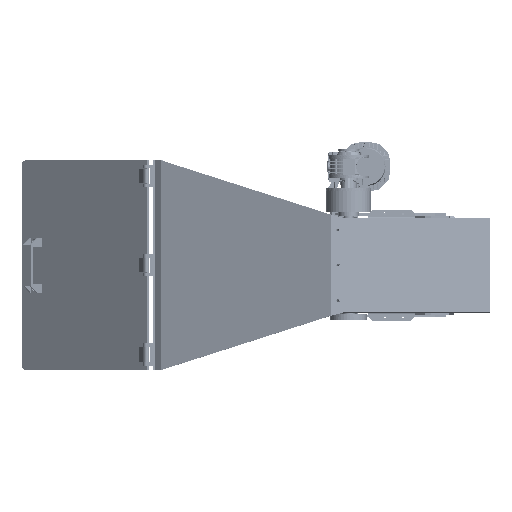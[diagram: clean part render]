
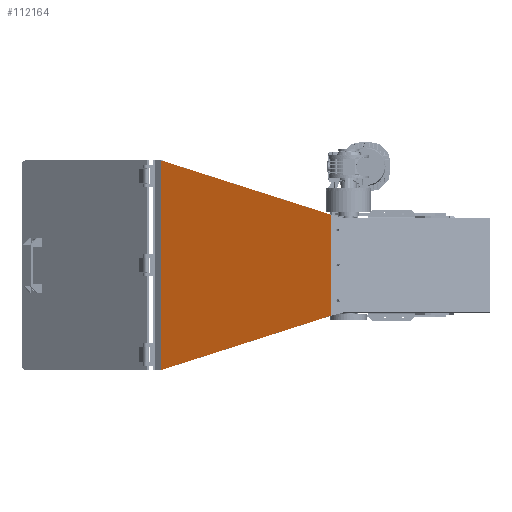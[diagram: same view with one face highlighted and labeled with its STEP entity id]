
A CAD part, left-side view. The second image highlights one B-rep face of the part: STEP entity #112164.
In plain terms, the highlighted planar face has unit normal (-0.945, 0.328, 0) as drawn and (0, 0.94, -0.341) by its records, which use the part's own axes.
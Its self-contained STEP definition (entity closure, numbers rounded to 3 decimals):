
#1595 = CARTESIAN_POINT ( 'NONE',  ( 124.025, 962.234, 265.293 ) ) ;
#5288 = VERTEX_POINT ( 'NONE', #158343 ) ;
#16166 = DIRECTION ( 'NONE',  ( 0., -0.94, 0.341 ) ) ;
#17763 = DIRECTION ( 'NONE',  ( -0.289, -0.326, -0.9 ) ) ;
#17828 = VECTOR ( 'NONE', #17763, 1000. ) ;
#32903 = EDGE_LOOP ( 'NONE', ( #192892, #64604, #220061, #95018 ) ) ;
#40908 = EDGE_CURVE ( 'NONE', #154256, #5288, #198997, .T. ) ;
#51159 = EDGE_CURVE ( 'NONE', #101628, #229108, #126811, .T. ) ;
#64604 = ORIENTED_EDGE ( 'NONE', *, *, #178168, .T. ) ;
#65037 = EDGE_CURVE ( 'NONE', #101628, #154256, #67479, .T. ) ;
#67479 = LINE ( 'NONE', #106807, #17828 ) ;
#70454 = CARTESIAN_POINT ( 'NONE',  ( -258.1, 961.973, 264.575 ) ) ;
#86675 = DIRECTION ( 'NONE',  ( -1., 0., 0. ) ) ;
#95018 = ORIENTED_EDGE ( 'NONE', *, *, #65037, .F. ) ;
#95758 = CARTESIAN_POINT ( 'NONE',  ( -258.1, 811.04, -152. ) ) ;
#101628 = VERTEX_POINT ( 'NONE', #139717 ) ;
#104094 = FACE_OUTER_BOUND ( 'NONE', #32903, .T. ) ;
#106807 = CARTESIAN_POINT ( 'NONE',  ( -124.025, 962.234, 265.293 ) ) ;
#112164 = ADVANCED_FACE ( 'NONE', ( #104094 ), #174874, .F. ) ;
#126811 = LINE ( 'NONE', #200878, #162293 ) ;
#139717 = CARTESIAN_POINT ( 'NONE',  ( -124.025, 962.234, 265.293 ) ) ;
#146373 = LINE ( 'NONE', #1595, #194371 ) ;
#146864 = DIRECTION ( 'NONE',  ( 1., 0., 0. ) ) ;
#148105 = AXIS2_PLACEMENT_3D ( 'NONE', #70454, #16166, #86675 ) ;
#154256 = VERTEX_POINT ( 'NONE', #188569 ) ;
#158343 = CARTESIAN_POINT ( 'NONE',  ( 258.1, 811.04, -152. ) ) ;
#162293 = VECTOR ( 'NONE', #183533, 1000. ) ;
#174874 = PLANE ( 'NONE',  #148105 ) ;
#178168 = EDGE_CURVE ( 'NONE', #229108, #5288, #146373, .T. ) ;
#183533 = DIRECTION ( 'NONE',  ( 1., 0., 0. ) ) ;
#188569 = CARTESIAN_POINT ( 'NONE',  ( -258.1, 811.04, -152. ) ) ;
#192892 = ORIENTED_EDGE ( 'NONE', *, *, #51159, .T. ) ;
#194371 = VECTOR ( 'NONE', #198470, 1000. ) ;
#198470 = DIRECTION ( 'NONE',  ( 0.289, -0.326, -0.9 ) ) ;
#198997 = LINE ( 'NONE', #95758, #215763 ) ;
#200878 = CARTESIAN_POINT ( 'NONE',  ( -124.025, 962.234, 265.293 ) ) ;
#203084 = CARTESIAN_POINT ( 'NONE',  ( 124.025, 962.234, 265.293 ) ) ;
#215763 = VECTOR ( 'NONE', #146864, 1000. ) ;
#220061 = ORIENTED_EDGE ( 'NONE', *, *, #40908, .F. ) ;
#229108 = VERTEX_POINT ( 'NONE', #203084 ) ;
